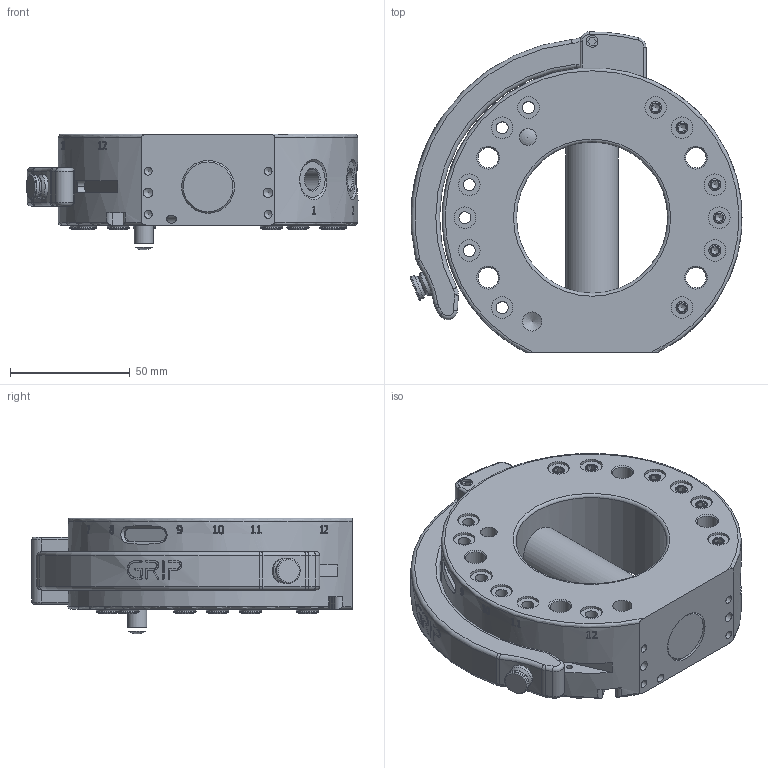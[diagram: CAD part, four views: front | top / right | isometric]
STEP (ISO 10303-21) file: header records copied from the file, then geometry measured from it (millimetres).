
FILE_DESCRIPTION(/* description */ (''),/* implementation_level */ '2;1');
FILE_NAME(/* name */ 'G-SHS125-O-K100.stp',/* time_stamp */ '2024-05-29T10:19:50+02:00',/* author */ ('ysplieth'),/* organization */ (''),/* preprocessor_version */ 'ST-DEVELOPER v20',/* originating_system */ 'Autodesk Inventor 2024',/* authorisation */ '');
FILE_SCHEMA (('AUTOMOTIVE_DESIGN { 1 0 10303 214 3 1 1 }'));
Products named in the file (1): Bauteil9
Bounding box: 138.4 x 133.49 x 48.3 mm (x, y, z)
Volume: 366855.8 mm3; surface area: 70199.2 mm2
Topology: 1 solids, 7 shells, 767 faces, 1922 edges, 1261 vertices
Faces by surface type: plane 279, cylinder 196, bspline 132, cone 98, torus 60, sphere 2
Full cylindrical faces by diameter (mm): 0.744 x1, 2.5 x2, 3.3 x6, 3.4 x2, 4 x6, 4.8 x1, 4.917 x4, 5 x24, 5.2 x12, 7 x2, 8 x2, 8.5 x4, 8.7 x6, 9 x12, 9.9 x12, 10.15 x1, 10.2 x1, 10.6 x1, 15 x4, 22 x3, 63 x1
Entity records: 61526 total; most frequent: CARTESIAN_POINT 43181, ORIENTED_EDGE 3798, DIRECTION 3227, EDGE_CURVE 1899, VERTEX_POINT 1261, AXIS2_PLACEMENT_3D 1239, EDGE_LOOP 934, STYLED_ITEM 768
